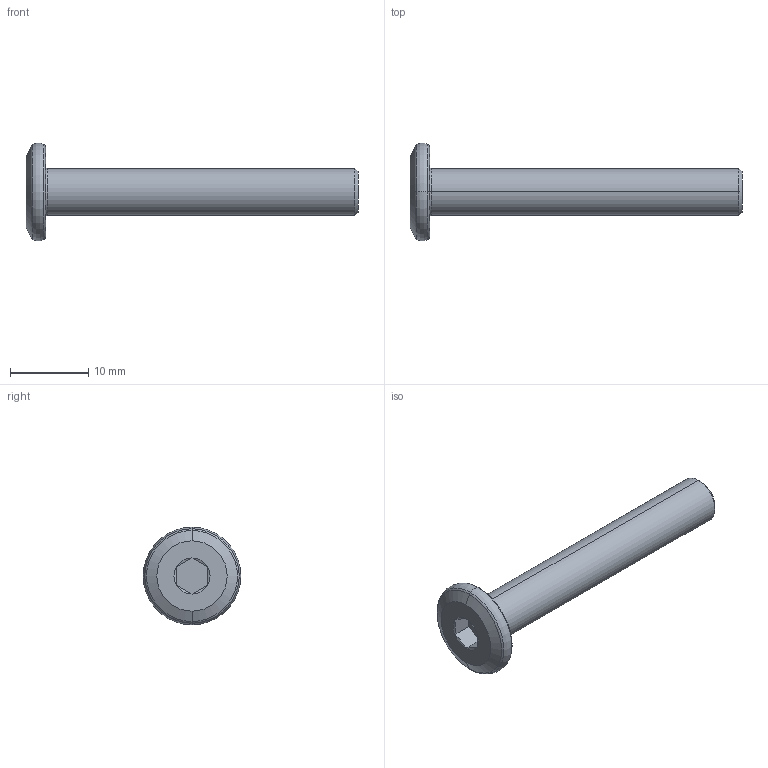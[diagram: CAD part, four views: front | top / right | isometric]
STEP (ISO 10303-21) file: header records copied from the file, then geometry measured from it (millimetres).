
FILE_DESCRIPTION (( 'STEP AP203' ), '1' );
FILE_NAME ('LGD-304D-M6x40.STEP', '2026-08-13T08:00:59', ( '' ), ( '' ), 'SwSTEP 2.0', 'SolidWorks 2020', '' );
FILE_SCHEMA (( 'CONFIG_CONTROL_DESIGN' ));
Length unit declared in the file: millimetre
Products named in the file (1): LGD-304D-M6x40
Bounding box: 42.5 x 12.49 x 12.49 mm (x, y, z)
Volume: 1368.9 mm3; surface area: 1081.5 mm2
Topology: 1 solids, 1 shells, 30 faces, 56 edges, 30 vertices
Faces by surface type: cone 10, plane 10, torus 8, cylinder 2
Entity records: 835 total; most frequent: CARTESIAN_POINT 151, DIRECTION 144, ORIENTED_EDGE 112, AXIS2_PLACEMENT_3D 63, EDGE_CURVE 56, CIRCLE 32, EDGE_LOOP 32, VERTEX_POINT 30
